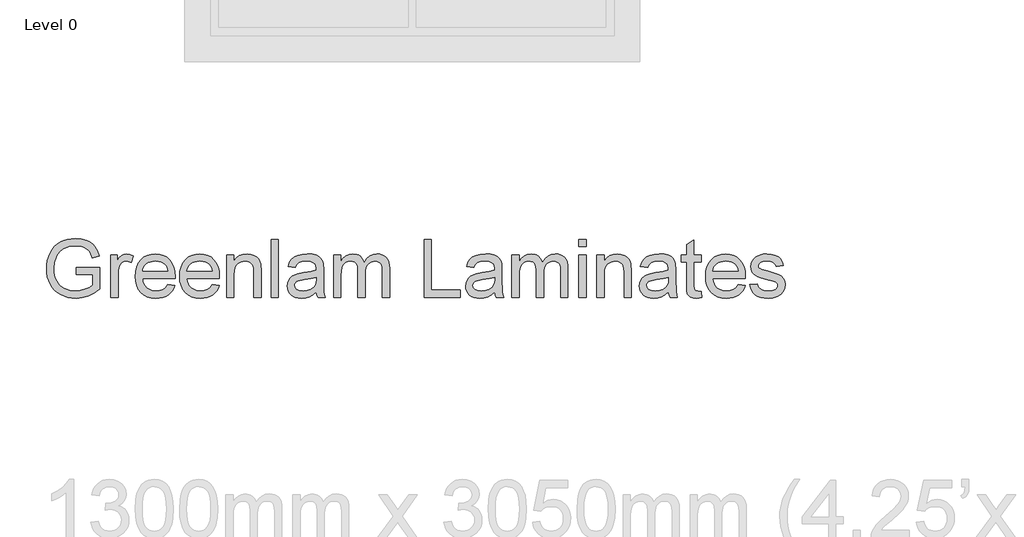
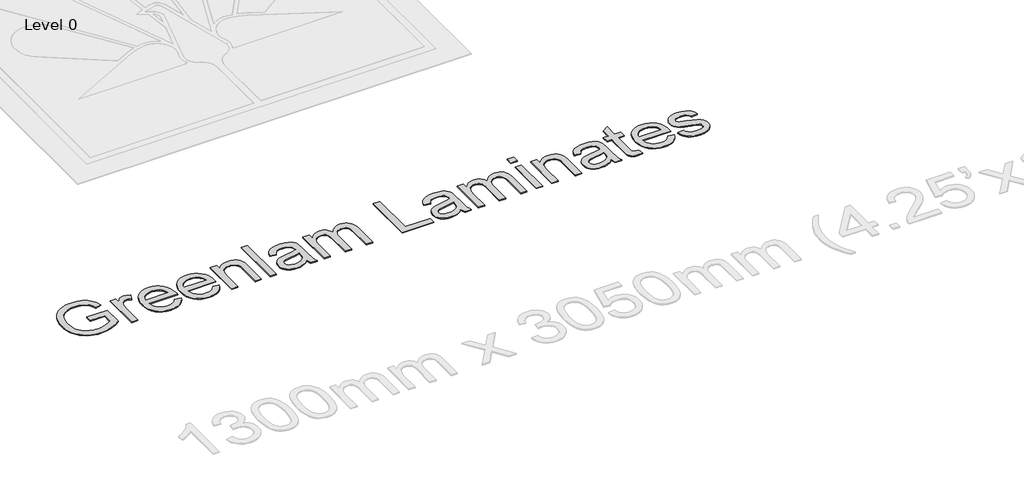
# One storey, part 4 of 4: 1 proxy.
"""IFC4 building model written with IfcOpenShell, lengths in millimetres."""

from ifc_helpers import new_model, si_unit, origin, origin_with_axes, place, context, project, spatial, polyline, outline, extrude, element, save

model = new_model("IFC4")

# Units and contexts
model_context = context("Model", 3, world=origin())
ifc_project = project(units=[si_unit("LENGTHUNIT", "METRE", prefix="MILLI")], contexts=[model_context])

# Site, building, storey
site = spatial("IfcSite", under=ifc_project)
building = spatial("IfcBuilding", under=site)
storey = spatial("IfcBuildingStorey", under=building, Name="Level 0", Elevation=0.0)

# Proxy
placement = place(None, origin())
element("IfcBuildingElementProxy", 1, Name="600mm Arial", ObjectType="600mm Arial", at=placement, inside=storey, context=model_context, shape_type="SweptSolid", body=[
    extrude(outline(polyline([(-10594.9298129, 2995.5724296), (-10594.9298129, 3070.9146622), (-10350.067557, 3070.9146622), (-10350.067557, 2845.6237284), (-10409.5724697, 2804.2370039), (-10470.9535806, 2774.5489269), (-10534.0637368, 2756.6698619), (-10598.7557857, 2750.7101736), (-10642.0325039, 2753.0784139), (-10683.2766741, 2760.183135), (-10722.4882962, 2772.0243367), (-10759.6673704, 2788.6020191), (-10793.6136815, 2809.6678618), (-10823.1270146, 2834.9735446), (-10848.2073696, 2864.5190673), (-10868.8547466, 2898.3044301), (-10884.9817735, 2935.2489794), (-10896.5010785, 2974.2720621), (-10903.4126615, 3015.373678), (-10905.7165225, 3058.5538272), (-10903.4218585, 3101.7385749), (-10896.5378667, 3143.4425975), (-10885.064547, 3183.6658952), (-10869.0018994, 3222.4084678), (-10848.6350324, 3257.9688612), (-10824.2490546, 3288.645621), (-10795.8439661, 3314.4387474), (-10763.4197667, 3335.3482403), (-10727.6800309, 3351.507457), (-10689.3283329, 3363.0497546), (-10648.3646727, 3369.9751331), (-10604.7890504, 3372.2835926), (-10542.7273578, 3366.9309096), (-10486.9196592, 3350.8728605), (-10462.0002525, 3339.1190308), (-10439.9227343, 3325.2682737), (-10420.6871045, 3309.3205892), (-10404.293363, 3291.2759773), (-10377.9346181, 3247.2588966), (-10358.749572, 3191.5799566), (-10428.2056927, 3172.0086345), (-10443.7119188, 3211.7214959), (-10462.5658711, 3241.6854844), (-10487.5082704, 3264.2734389), (-10521.2798375, 3281.8581982), (-10561.5445219, 3293.1705696), (-10605.9662728, 3296.94136), (-10657.9663928, 3292.876264), (-10702.4249319, 3280.6809758), (-10739.1763433, 3261.8822059), (-10768.0550799, 3238.0066644), (-10790.2199701, 3210.2867561), (-10806.8298422, 3179.9548856), (-10824.4881779, 3123.0803291), (-10830.3742899, 3061.6440359), (-10828.6038578, 3024.0235034), (-10823.2925615, 2989.5943472), (-10814.4404009, 2958.3565672), (-10802.0473762, 2930.3101636), (-10786.2744357, 2905.5609024), (-10767.2825277, 2884.2145496), (-10745.0716522, 2866.2711053), (-10719.6418093, 2851.7305695), (-10692.1840169, 2840.496373), (-10663.8892929, 2832.471947), (-10634.7576374, 2827.6572914), (-10604.7890504, 2826.0524062), (-10552.6049894, 2830.8900544), (-10501.7085154, 2845.4029992), (-10457.5074936, 2865.3973856), (-10425.4097896, 2886.679359), (-10425.4097896, 2995.5724296), (-10594.9298129, 2995.5724296)])), origin_with_axes(), (0.0, 0.0, 1.0), 10.0),
    extrude(outline(polyline([(-10237.054208, 2760.1279527), (-10237.054208, 3202.7635693), (-10171.1297545, 3202.7635693), (-10171.1297545, 3137.2805741), (-10146.7759664, 3175.245996), (-10124.3351647, 3197.6132213), (-10101.8207866, 3208.5393166), (-10077.2462693, 3212.1813483), (-10039.7223058, 3206.3688128), (-10001.6097311, 3188.9312062), (-10026.7728596, 3121.3880719), (-10053.2603632, 3132.9763548), (-10079.7478669, 3136.8391157), (-10102.2438509, 3133.1235076), (-10122.3486019, 3121.9766831), (-10138.590592, 3104.244771), (-10149.4982932, 3080.7738997), (-10158.6585549, 3038.6881994), (-10161.7119754, 2992.7765264), (-10161.7119754, 2760.1279527), (-10237.054208, 2760.1279527)])), origin_with_axes(), (0.0, 0.0, 1.0), 10.0),
    extrude(outline(polyline([(-9644.617043, 2891.9768597), (-9570.7463384, 2882.5590807), (-9582.0725053, 2852.9721712), (-9597.3626007, 2826.8985348), (-9616.6166246, 2804.3381714), (-9639.8345771, 2785.2910811), (-9666.7773347, 2770.1619341), (-9697.2057742, 2759.3554005), (-9731.1198956, 2752.8714803), (-9768.519699, 2750.7101736), (-9815.2683035, 2754.4395773), (-9856.9217424, 2765.6277885), (-9893.4800157, 2784.2748071), (-9924.9431233, 2810.3806332), (-9950.2442075, 2843.2186998), (-9968.3164106, 2882.06244), (-9979.1597324, 2926.9118537), (-9982.774173, 2977.766941), (-9979.1229442, 3030.3464752), (-9968.1692578, 3076.6904095), (-9949.9131138, 3116.798744), (-9924.3545121, 3150.6714788), (-9892.9741779, 3177.5820467), (-9857.2528362, 3196.8038809), (-9817.1904869, 3208.3369815), (-9772.7871301, 3212.1813483), (-9729.8139146, 3208.3461785), (-9690.9517803, 3196.8406691), (-9656.2007273, 3177.6648201), (-9625.5607557, 3150.8186315), (-9600.5493785, 3117.0194732), (-9582.6841091, 3076.9847151), (-9571.9649475, 3030.7143572), (-9568.3918936, 2978.2083994), (-9568.833352, 2957.9013133), (-9907.4319404, 2957.9013133), (-9903.0679402, 2927.8361572), (-9894.3905236, 2901.5050034), (-9881.3996907, 2878.9078519), (-9864.0954413, 2860.0447026), (-9843.4342688, 2845.1730729), (-9820.3726662, 2834.5504803), (-9794.9106336, 2828.1769247), (-9767.048171, 2826.0524062), (-9726.9490335, 2829.9887436), (-9693.1774664, 2841.7977556), (-9665.7334695, 2862.2152063), (-9644.617043, 2891.9768597)]), holes=[polyline([(-9907.4319404, 3033.2435459), (-9643.7341262, 3033.2435459), (-9653.9244575, 3073.0483778), (-9662.689246, 3088.7017567), (-9673.9004498, 3101.5224442), (-9694.4466593, 3116.973488), (-9717.82556, 3128.0099478), (-9744.0371522, 3134.6318238), (-9773.0814357, 3136.8391157), (-9799.5735379, 3135.0778807), (-9823.8675452, 3129.7941755), (-9845.9634575, 3120.9880003), (-9865.8612749, 3108.6593549), (-9882.558519, 3093.3784565), (-9895.0527112, 3075.7155222), (-9903.3438517, 3055.670552), (-9907.4319404, 3033.2435459)])]), origin_with_axes(), (0.0, 0.0, 1.0), 10.0),
    extrude(outline(polyline([(-9183.1458683, 2891.9768597), (-9109.2751636, 2882.5590807), (-9120.6013305, 2852.9721712), (-9135.891426, 2826.8985348), (-9155.1454499, 2804.3381714), (-9178.3634023, 2785.2910811), (-9205.3061599, 2770.1619341), (-9235.7345995, 2759.3554005), (-9269.6487209, 2752.8714803), (-9307.0485242, 2750.7101736), (-9353.7971288, 2754.4395773), (-9395.4505677, 2765.6277885), (-9432.0088409, 2784.2748071), (-9463.4719486, 2810.3806332), (-9488.7730328, 2843.2186998), (-9506.8452358, 2882.06244), (-9517.6885576, 2926.9118537), (-9521.3029982, 2977.766941), (-9517.6517694, 3030.3464752), (-9506.698083, 3076.6904095), (-9488.441939, 3116.798744), (-9462.8833374, 3150.6714788), (-9431.5030032, 3177.5820467), (-9395.7816615, 3196.8038809), (-9355.7193122, 3208.3369815), (-9311.3159554, 3212.1813483), (-9268.3427398, 3208.3461785), (-9229.4806055, 3196.8406691), (-9194.7295526, 3177.6648201), (-9164.0895809, 3150.8186315), (-9139.0782038, 3117.0194732), (-9121.2129344, 3076.9847151), (-9110.4937727, 3030.7143572), (-9106.9207189, 2978.2083994), (-9107.3621772, 2957.9013133), (-9445.9607656, 2957.9013133), (-9441.5967654, 2927.8361572), (-9432.9193489, 2901.5050034), (-9419.9285159, 2878.9078519), (-9402.6242666, 2860.0447026), (-9381.963094, 2845.1730729), (-9358.9014915, 2834.5504803), (-9333.4394589, 2828.1769247), (-9305.5769962, 2826.0524062), (-9265.4778588, 2829.9887436), (-9231.7062916, 2841.7977556), (-9204.2622948, 2862.2152063), (-9183.1458683, 2891.9768597)]), holes=[polyline([(-9445.9607656, 3033.2435459), (-9182.2629515, 3033.2435459), (-9192.4532827, 3073.0483778), (-9201.2180713, 3088.7017567), (-9212.4292751, 3101.5224442), (-9232.9754845, 3116.973488), (-9256.3543853, 3128.0099478), (-9282.5659775, 3134.6318238), (-9311.610261, 3136.8391157), (-9338.1023631, 3135.0778807), (-9362.3963704, 3129.7941755), (-9384.4922827, 3120.9880003), (-9404.3901002, 3108.6593549), (-9421.0873442, 3093.3784565), (-9433.5815365, 3075.7155222), (-9441.8726769, 3055.670552), (-9445.9607656, 3033.2435459)])]), origin_with_axes(), (0.0, 0.0, 1.0), 10.0),
    extrude(outline(polyline([(-9031.5784862, 2760.1279527), (-9031.5784862, 3202.7635693), (-8956.2362536, 3202.7635693), (-8956.2362536, 3140.9593941), (-8930.0614497, 3172.1189991), (-8898.6259332, 3194.3758598), (-8861.9297042, 3207.7299762), (-8819.9727626, 3212.1813483), (-8782.8350752, 3208.5944989), (-8748.8243847, 3197.8339505), (-8720.4606829, 3181.2424725), (-8700.2639614, 3160.1628342), (-8686.5603571, 3134.6502179), (-8677.6760069, 3104.7598058), (-8673.7028813, 3031.9191707), (-8673.7028813, 2760.1279527), (-8749.0451139, 2760.1279527), (-8749.0451139, 3021.7656276), (-8751.2156177, 3060.7243309), (-8757.727129, 3088.4258452), (-8769.7384762, 3108.2730788), (-8788.4084874, 3123.6689403), (-8812.3392112, 3133.5465719), (-8840.132696, 3136.8391157), (-8863.0103575, 3134.9905087), (-8884.2601413, 3129.4446876), (-8903.8820472, 3120.2016525), (-8921.8760753, 3107.2614033), (-8936.9086533, 3089.1524121), (-8947.646209, 3064.4031509), (-8954.0887425, 3033.0136196), (-8956.2362536, 2994.9838184), (-8956.2362536, 2760.1279527), (-9031.5784862, 2760.1279527)])), origin_with_axes(), (0.0, 0.0, 1.0), 10.0),
    extrude(outline(polyline([(-8570.1073115, 2760.1279527), (-8570.1073115, 3362.8658136), (-8494.7650789, 3362.8658136), (-8494.7650789, 2760.1279527), (-8570.1073115, 2760.1279527)])), origin_with_axes(), (0.0, 0.0, 1.0), 10.0),
    extrude(outline(polyline([(-8099.2183577, 2816.6346271), (-8135.2156109, 2785.7693277), (-8172.2797219, 2765.5726062), (-8211.2568193, 2754.4257817), (-8252.9930316, 2750.7101736), (-8286.5392711, 2752.9450567), (-8315.9560351, 2759.6497061), (-8341.2433238, 2770.8241217), (-8362.401137, 2786.4683035), (-8379.1075781, 2805.5889702), (-8391.0407503, 2827.1928404), (-8398.2006537, 2851.279914), (-8400.5872881, 2877.8501911), (-8396.9820446, 2909.0833725), (-8386.1663139, 2937.4470743), (-8369.4828654, 2961.727286), (-8348.2744684, 2980.709997), (-8323.3504632, 2995.0573948), (-8295.5201903, 3005.4316671), (-8230.3315007, 3016.7624325), (-8153.297011, 3028.6818092), (-8099.6598161, 3042.661325), (-8099.2183577, 3059.4367439), (-8104.4054938, 3093.0611583), (-8110.889414, 3105.5139638), (-8119.9669022, 3115.0605016), (-8135.6570693, 3124.5886453), (-8154.7685389, 3131.3944622), (-8203.2553859, 3136.8391157), (-8248.1369893, 3133.2154781), (-8279.4805353, 3122.3445651), (-8300.8544792, 3102.2398141), (-8315.8272764, 3070.9146622), (-8391.169509, 3080.3324413), (-8378.0913041, 3121.5352247), (-8358.5751643, 3153.9088403), (-8330.8000736, 3178.6672986), (-8292.9450163, 3197.0246101), (-8246.6470672, 3208.3921638), (-8193.5433012, 3212.1813483), (-8142.610039, 3208.8336222), (-8102.23499, 3198.7904437), (-8071.7927549, 3183.6888878), (-8050.6579343, 3165.1660294), (-8036.6416303, 3142.2653752), (-8027.554945, 3114.030432), (-8023.8761251, 3048.1059785), (-8023.8761251, 2954.3696461), (-8020.0501523, 2823.4772322), (-8014.3847696, 2791.1220108), (-8005.0405669, 2760.1279527), (-8080.3827995, 2760.1279527), (-8092.449329, 2786.3211507), (-8099.2183577, 2816.6346271)]), holes=[polyline([(-8099.2183577, 2967.3190924), (-8149.8389202, 2954.7743163), (-8220.7665689, 2944.2161031), (-8285.5873764, 2932.0024208), (-8302.4547659, 2923.6514995), (-8314.9443596, 2912.1367931), (-8322.6698815, 2898.3412183), (-8325.2450555, 2883.1476919), (-8319.6348551, 2860.7436784), (-8302.8042538, 2842.3863668), (-8275.1211337, 2830.1358964), (-8236.9533767, 2826.0524062), (-8196.4863572, 2830.5589606), (-8160.7282273, 2844.078624), (-8131.739126, 2863.999434), (-8111.5791927, 2887.7094286), (-8102.6396602, 2912.1367931), (-8099.6598161, 2945.9819366), (-8099.2183577, 2967.3190924)])]), origin_with_axes(), (0.0, 0.0, 1.0), 10.0),
    extrude(outline(polyline([(-7920.2805552, 2760.1279527), (-7920.2805552, 3202.7635693), (-7844.9383226, 3202.7635693), (-7844.9383226, 3129.9229342), (-7822.2767917, 3163.3818017), (-7793.1405377, 3189.5933938), (-7758.5228419, 3206.5343597), (-7719.4169858, 3212.1813483), (-7677.5152266, 3206.4239951), (-7659.6821469, 3199.2273036), (-7643.9276004, 3189.1519354), (-7618.8380484, 3161.5056035), (-7602.4305114, 3124.6254335), (-7574.9681204, 3162.9311462), (-7543.6429685, 3190.2923696), (-7508.4550557, 3206.7091037), (-7469.4043819, 3212.1813483), (-7439.2426568, 3209.9050785), (-7412.7689488, 3203.076269), (-7389.9832577, 3191.6949197), (-7370.8855836, 3175.7610308), (-7355.7886262, 3155.0906612), (-7345.0050853, 3129.4998699), (-7338.5349607, 3098.988657), (-7336.3782525, 3063.5570223), (-7336.3782525, 2760.1279527), (-7411.7204851, 2760.1279527), (-7411.7204851, 3031.1834067), (-7413.4679246, 3068.7625525), (-7418.710243, 3094.0912279), (-7428.5326923, 3111.436864), (-7444.0205243, 3125.0668919), (-7463.9413343, 3133.8960598), (-7487.0627177, 3136.8391157), (-7508.413669, 3134.9537205), (-7527.8792251, 3129.2975348), (-7545.4593859, 3119.8705587), (-7561.1541515, 3106.6727921), (-7574.062211, 3089.317959), (-7583.2822535, 3067.4197832), (-7588.814279, 3040.9782648), (-7590.6582875, 3009.9934038), (-7590.6582875, 2760.1279527), (-7666.0005201, 2760.1279527), (-7666.0005201, 3039.5711162), (-7670.3599218, 3082.1718512), (-7675.8091738, 3098.8920879), (-7683.4381267, 3112.5589041), (-7693.5502831, 3123.1814967), (-7706.4491455, 3130.7690628), (-7722.1347141, 3135.3216025), (-7740.6069888, 3136.8391157), (-7769.6328782, 3132.7924138), (-7796.3778992, 3120.6523079), (-7818.4508189, 3100.7131038), (-7833.4604044, 3073.269107), (-7842.068843, 3035.1933205), (-7844.9383226, 2983.3587473), (-7844.9383226, 2760.1279527), (-7920.2805552, 2760.1279527)])), origin_with_axes(), (0.0, 0.0, 1.0), 10.0),
    extrude(outline(polyline([(-6978.5026476, 2760.1279527), (-6978.5026476, 3362.8658136), (-6903.1604149, 3362.8658136), (-6903.1604149, 2835.4701853), (-6601.7914845, 2835.4701853), (-6601.7914845, 2760.1279527), (-6978.5026476, 2760.1279527)])), origin_with_axes(), (0.0, 0.0, 1.0), 10.0),
    extrude(outline(polyline([(-6243.9158796, 2816.6346271), (-6279.9131328, 2785.7693277), (-6316.9772438, 2765.5726062), (-6355.9543412, 2754.4257817), (-6397.6905536, 2750.7101736), (-6431.236793, 2752.9450567), (-6460.653557, 2759.6497061), (-6485.9408457, 2770.8241217), (-6507.0986589, 2786.4683035), (-6523.8051, 2805.5889702), (-6535.7382723, 2827.1928404), (-6542.8981756, 2851.279914), (-6545.28481, 2877.8501911), (-6541.6795665, 2909.0833725), (-6530.8638358, 2937.4470743), (-6514.1803873, 2961.727286), (-6492.9719903, 2980.709997), (-6468.0479852, 2995.0573948), (-6440.2177122, 3005.4316671), (-6375.0290227, 3016.7624325), (-6297.9945329, 3028.6818092), (-6244.357338, 3042.661325), (-6243.9158796, 3059.4367439), (-6249.1030157, 3093.0611583), (-6255.5869359, 3105.5139638), (-6264.6644241, 3115.0605016), (-6280.3545912, 3124.5886453), (-6299.4660609, 3131.3944622), (-6347.9529078, 3136.8391157), (-6392.8345112, 3133.2154781), (-6424.1780572, 3122.3445651), (-6445.5520011, 3102.2398141), (-6460.5247984, 3070.9146622), (-6535.867031, 3080.3324413), (-6522.788826, 3121.5352247), (-6503.2726862, 3153.9088403), (-6475.4975956, 3178.6672986), (-6437.6425383, 3197.0246101), (-6391.3445892, 3208.3921638), (-6338.2408232, 3212.1813483), (-6287.3075609, 3208.8336222), (-6246.932512, 3198.7904437), (-6216.4902768, 3183.6888878), (-6195.3554562, 3165.1660294), (-6181.3391522, 3142.2653752), (-6172.2524669, 3114.030432), (-6168.573647, 3048.1059785), (-6168.573647, 2954.3696461), (-6164.7476742, 2823.4772322), (-6159.0822915, 2791.1220108), (-6149.7380888, 2760.1279527), (-6225.0803214, 2760.1279527), (-6237.1468509, 2786.3211507), (-6243.9158796, 2816.6346271)]), holes=[polyline([(-6243.9158796, 2967.3190924), (-6294.5364421, 2954.7743163), (-6365.4640908, 2944.2161031), (-6430.2848983, 2932.0024208), (-6447.1522878, 2923.6514995), (-6459.6418816, 2912.1367931), (-6467.3674035, 2898.3412183), (-6469.9425774, 2883.1476919), (-6464.332377, 2860.7436784), (-6447.5017757, 2842.3863668), (-6419.8186556, 2830.1358964), (-6381.6508986, 2826.0524062), (-6341.1838791, 2830.5589606), (-6305.4257492, 2844.078624), (-6276.436648, 2863.999434), (-6256.2767146, 2887.7094286), (-6247.3371821, 2912.1367931), (-6244.357338, 2945.9819366), (-6243.9158796, 2967.3190924)])]), origin_with_axes(), (0.0, 0.0, 1.0), 10.0),
    extrude(outline(polyline([(-6064.9780771, 2760.1279527), (-6064.9780771, 3202.7635693), (-5989.6358445, 3202.7635693), (-5989.6358445, 3129.9229342), (-5966.9743136, 3163.3818017), (-5937.8380596, 3189.5933938), (-5903.2203639, 3206.5343597), (-5864.1145078, 3212.1813483), (-5822.2127485, 3206.4239951), (-5804.3796688, 3199.2273036), (-5788.6251224, 3189.1519354), (-5763.5355703, 3161.5056035), (-5747.1280333, 3124.6254335), (-5719.6656424, 3162.9311462), (-5688.3404905, 3190.2923696), (-5653.1525776, 3206.7091037), (-5614.1019038, 3212.1813483), (-5583.9401788, 3209.9050785), (-5557.4664707, 3203.076269), (-5534.6807796, 3191.6949197), (-5515.5831055, 3175.7610308), (-5500.4861482, 3155.0906612), (-5489.7026072, 3129.4998699), (-5483.2324826, 3098.988657), (-5481.0757744, 3063.5570223), (-5481.0757744, 2760.1279527), (-5556.418007, 2760.1279527), (-5556.418007, 3031.1834067), (-5558.1654465, 3068.7625525), (-5563.4077649, 3094.0912279), (-5573.2302142, 3111.436864), (-5588.7180462, 3125.0668919), (-5608.6388562, 3133.8960598), (-5631.7602396, 3136.8391157), (-5653.1111909, 3134.9537205), (-5672.576747, 3129.2975348), (-5690.1569078, 3119.8705587), (-5705.8516734, 3106.6727921), (-5718.759733, 3089.317959), (-5727.9797755, 3067.4197832), (-5733.511801, 3040.9782648), (-5735.3558095, 3009.9934038), (-5735.3558095, 2760.1279527), (-5810.6980421, 2760.1279527), (-5810.6980421, 3039.5711162), (-5815.0574437, 3082.1718512), (-5820.5066958, 3098.8920879), (-5828.1356486, 3112.5589041), (-5838.247805, 3123.1814967), (-5851.1466674, 3130.7690628), (-5866.832236, 3135.3216025), (-5885.3045107, 3136.8391157), (-5914.3304001, 3132.7924138), (-5941.0754212, 3120.6523079), (-5963.1483409, 3100.7131038), (-5978.1579263, 3073.269107), (-5986.766365, 3035.1933205), (-5989.6358445, 2983.3587473), (-5989.6358445, 2760.1279527), (-6064.9780771, 2760.1279527)])), origin_with_axes(), (0.0, 0.0, 1.0), 10.0),
    extrude(outline(polyline([(-5368.0624255, 3287.523581), (-5368.0624255, 3362.8658136), (-5292.7201929, 3362.8658136), (-5292.7201929, 3287.523581), (-5368.0624255, 3287.523581)])), origin_with_axes(), (0.0, 0.0, 1.0), 10.0),
    extrude(outline(polyline([(-5368.0624255, 2760.1279527), (-5368.0624255, 3202.7635693), (-5292.7201929, 3202.7635693), (-5292.7201929, 2760.1279527), (-5368.0624255, 2760.1279527)])), origin_with_axes(), (0.0, 0.0, 1.0), 10.0),
    extrude(outline(polyline([(-5179.7068439, 2760.1279527), (-5179.7068439, 3202.7635693), (-5104.3646113, 3202.7635693), (-5104.3646113, 3140.9593941), (-5078.1898074, 3172.1189991), (-5046.7542909, 3194.3758598), (-5010.0580619, 3207.7299762), (-4968.1011203, 3212.1813483), (-4930.9634329, 3208.5944989), (-4896.9527424, 3197.8339505), (-4868.5890406, 3181.2424725), (-4848.3923191, 3160.1628342), (-4834.6887148, 3134.6502179), (-4825.8043646, 3104.7598058), (-4821.831239, 3031.9191707), (-4821.831239, 2760.1279527), (-4897.1734716, 2760.1279527), (-4897.1734716, 3021.7656276), (-4899.3439754, 3060.7243309), (-4905.8554867, 3088.4258452), (-4917.8668339, 3108.2730788), (-4936.5368451, 3123.6689403), (-4960.4675689, 3133.5465719), (-4988.2610537, 3136.8391157), (-5011.1387152, 3134.9905087), (-5032.388499, 3129.4446876), (-5052.0104049, 3120.2016525), (-5070.004433, 3107.2614033), (-5085.037011, 3089.1524121), (-5095.7745667, 3064.4031509), (-5102.2171002, 3033.0136196), (-5104.3646113, 2994.9838184), (-5104.3646113, 2760.1279527), (-5179.7068439, 2760.1279527)])), origin_with_axes(), (0.0, 0.0, 1.0), 10.0),
    extrude(outline(polyline([(-4435.7022969, 2816.6346271), (-4471.6995501, 2785.7693277), (-4508.7636611, 2765.5726062), (-4547.7407585, 2754.4257817), (-4589.4769709, 2750.7101736), (-4623.0232103, 2752.9450567), (-4652.4399744, 2759.6497061), (-4677.727263, 2770.8241217), (-4698.8850762, 2786.4683035), (-4715.5915174, 2805.5889702), (-4727.5246896, 2827.1928404), (-4734.6845929, 2851.279914), (-4737.0712273, 2877.8501911), (-4733.4659838, 2909.0833725), (-4722.6502531, 2937.4470743), (-4705.9668047, 2961.727286), (-4684.7584076, 2980.709997), (-4659.8344025, 2995.0573948), (-4632.0041295, 3005.4316671), (-4566.81544, 3016.7624325), (-4489.7809502, 3028.6818092), (-4436.1437553, 3042.661325), (-4435.7022969, 3059.4367439), (-4440.889433, 3093.0611583), (-4447.3733532, 3105.5139638), (-4456.4508414, 3115.0605016), (-4472.1410085, 3124.5886453), (-4491.2524782, 3131.3944622), (-4539.7393251, 3136.8391157), (-4584.6209285, 3133.2154781), (-4615.9644745, 3122.3445651), (-4637.3384185, 3102.2398141), (-4652.3112157, 3070.9146622), (-4727.6534483, 3080.3324413), (-4714.5752433, 3121.5352247), (-4695.0591035, 3153.9088403), (-4667.2840129, 3178.6672986), (-4629.4289556, 3197.0246101), (-4583.1310065, 3208.3921638), (-4530.0272405, 3212.1813483), (-4479.0939782, 3208.8336222), (-4438.7189293, 3198.7904437), (-4408.2766942, 3183.6888878), (-4387.1418735, 3165.1660294), (-4373.1255695, 3142.2653752), (-4364.0388842, 3114.030432), (-4360.3600643, 3048.1059785), (-4360.3600643, 2954.3696461), (-4356.5340915, 2823.4772322), (-4350.8687088, 2791.1220108), (-4341.5245061, 2760.1279527), (-4416.8667387, 2760.1279527), (-4428.9332682, 2786.3211507), (-4435.7022969, 2816.6346271)]), holes=[polyline([(-4435.7022969, 2967.3190924), (-4486.3228594, 2954.7743163), (-4557.2505081, 2944.2161031), (-4622.0713157, 2932.0024208), (-4638.9387051, 2923.6514995), (-4651.4282989, 2912.1367931), (-4659.1538208, 2898.3412183), (-4661.7289947, 2883.1476919), (-4656.1187943, 2860.7436784), (-4639.288193, 2842.3863668), (-4611.6050729, 2830.1358964), (-4573.4373159, 2826.0524062), (-4532.9702964, 2830.5589606), (-4497.2121665, 2844.078624), (-4468.2230653, 2863.999434), (-4448.0631319, 2887.7094286), (-4439.1235995, 2912.1367931), (-4436.1437553, 2945.9819366), (-4435.7022969, 2967.3190924)])]), origin_with_axes(), (0.0, 0.0, 1.0), 10.0),
    extrude(outline(polyline([(-4096.6622501, 2822.9621974), (-4087.2444711, 2757.9206607), (-4143.6039927, 2750.7101736), (-4179.7667929, 2753.8371706), (-4206.7325431, 2763.2181614), (-4225.7888304, 2777.6759238), (-4238.2232419, 2796.0332354), (-4245.065847, 2827.5607224), (-4247.3467154, 2881.5290111), (-4247.3467154, 3127.4213367), (-4303.8533898, 3127.4213367), (-4303.8533898, 3202.7635693), (-4247.3467154, 3202.7635693), (-4247.3467154, 3310.3322647), (-4172.0044828, 3354.6252569), (-4172.0044828, 3202.7635693), (-4096.6622501, 3202.7635693), (-4096.6622501, 3127.4213367), (-4172.0044828, 3127.4213367), (-4172.0044828, 2883.7363031), (-4168.0313572, 2844.8879644), (-4155.1554874, 2831.1291777), (-4144.2845744, 2827.3215991), (-4129.4773241, 2826.0524062), (-4096.6622501, 2822.9621974)])), origin_with_axes(), (0.0, 0.0, 1.0), 10.0),
    extrude(outline(polyline([(-3711.4162248, 2891.9768597), (-3637.5455202, 2882.5590807), (-3648.8716871, 2852.9721712), (-3664.1617825, 2826.8985348), (-3683.4158064, 2804.3381714), (-3706.6337589, 2785.2910811), (-3733.5765165, 2770.1619341), (-3764.004956, 2759.3554005), (-3797.9190774, 2752.8714803), (-3835.3188808, 2750.7101736), (-3882.0674853, 2754.4395773), (-3923.7209242, 2765.6277885), (-3960.2791975, 2784.2748071), (-3991.7423051, 2810.3806332), (-4017.0433893, 2843.2186998), (-4035.1155923, 2882.06244), (-4045.9589142, 2926.9118537), (-4049.5733548, 2977.766941), (-4045.922126, 3030.3464752), (-4034.9684396, 3076.6904095), (-4016.7122955, 3116.798744), (-3991.1536939, 3150.6714788), (-3959.7733597, 3177.5820467), (-3924.052018, 3196.8038809), (-3883.9896687, 3208.3369815), (-3839.5863119, 3212.1813483), (-3796.6130964, 3208.3461785), (-3757.7509621, 3196.8406691), (-3722.9999091, 3177.6648201), (-3692.3599374, 3150.8186315), (-3667.3485603, 3117.0194732), (-3649.4832909, 3076.9847151), (-3638.7641293, 3030.7143572), (-3635.1910754, 2978.2083994), (-3635.6325338, 2957.9013133), (-3974.2311221, 2957.9013133), (-3969.867122, 2927.8361572), (-3961.1897054, 2901.5050034), (-3948.1988725, 2878.9078519), (-3930.8946231, 2860.0447026), (-3910.2334506, 2845.1730729), (-3887.171848, 2834.5504803), (-3861.7098154, 2828.1769247), (-3833.8473528, 2826.0524062), (-3793.7482153, 2829.9887436), (-3759.9766482, 2841.7977556), (-3732.5326513, 2862.2152063), (-3711.4162248, 2891.9768597)]), holes=[polyline([(-3974.2311221, 3033.2435459), (-3710.533308, 3033.2435459), (-3720.7236393, 3073.0483778), (-3729.4884278, 3088.7017567), (-3740.6996316, 3101.5224442), (-3761.245841, 3116.973488), (-3784.6247418, 3128.0099478), (-3810.836334, 3134.6318238), (-3839.8806175, 3136.8391157), (-3866.3727197, 3135.0778807), (-3890.6667269, 3129.7941755), (-3912.7626393, 3120.9880003), (-3932.6604567, 3108.6593549), (-3949.3577007, 3093.3784565), (-3961.851893, 3075.7155222), (-3970.1430335, 3055.670552), (-3974.2311221, 3033.2435459)])]), origin_with_axes(), (0.0, 0.0, 1.0), 10.0),
    extrude(outline(polyline([(-3588.10218, 2891.9768597), (-3512.7599474, 2901.3946388), (-3508.2074077, 2884.2145496), (-3500.877359, 2869.168176), (-3490.7698011, 2856.255518), (-3477.8847343, 2845.4765756), (-3462.1853701, 2836.9785015), (-3443.6349205, 2830.9084485), (-3397.9807649, 2826.0524062), (-3352.8784323, 2830.5037783), (-3335.3488552, 2836.0679935), (-3321.1670043, 2843.8578948), (-3302.4050226, 2863.2084877), (-3297.7145271, 2874.0426125), (-3296.1510286, 2885.6492894), (-3297.7237242, 2895.8212266), (-3302.4418108, 2904.8527296), (-3321.3141571, 2919.494433), (-3349.5307061, 2929.0593649), (-3398.8636817, 2940.9787415), (-3467.6208266, 2960.8627633), (-3512.318489, 2977.8405174), (-3541.0316787, 2996.3633759), (-3561.8354056, 3020.8827109), (-3574.4721521, 3049.8350239), (-3578.6844009, 3081.6568165), (-3575.2998866, 3110.8482528), (-3565.1463435, 3137.7956089), (-3549.1434767, 3161.4320271), (-3528.2109912, 3180.6906496), (-3507.4072644, 3192.8123613), (-3480.3127554, 3202.9842985), (-3448.9876035, 3209.8820859), (-3415.4919479, 3212.1813483), (-3366.4532779, 3208.4841343), (-3323.8157547, 3197.3924921), (-3289.5291527, 3179.9916738), (-3265.5432466, 3157.3669311), (-3249.6507444, 3127.844401), (-3239.6443542, 3089.7502203), (-3314.9865868, 3080.3324413), (-3324.4963364, 3104.0424359), (-3343.3135004, 3121.9031067), (-3371.6220199, 3133.1051135), (-3409.605836, 3136.8391157), (-3452.8687586, 3133.2706604), (-3481.710707, 3122.5652943), (-3497.934303, 3107.1142505), (-3503.3421683, 3089.308762), (-3501.0980882, 3077.7204791), (-3494.3658476, 3067.382995), (-3482.8511412, 3058.149157), (-3466.2596632, 3050.7547289), (-3401.3652793, 3034.7150739), (-3290.7799515, 2999.2512495), (-3261.5701211, 2982.2918896), (-3239.423625, 2959.0785357), (-3225.4625033, 2929.5376115), (-3220.808796, 2893.5955405), (-3226.2718437, 2856.439459), (-3242.6609865, 2821.4906695), (-3269.3508253, 2791.4898928), (-3305.7159605, 2769.1778498), (-3349.6410707, 2755.3270926), (-3399.0108345, 2750.7101736), (-3439.5606274, 2752.9358597), (-3474.9784665, 2759.6129179), (-3505.2643517, 2770.7413482), (-3530.4182832, 2786.3211507), (-3550.9644926, 2806.278749), (-3567.4272119, 2830.5405665), (-3579.806441, 2859.1066035), (-3588.10218, 2891.9768597)])), origin_with_axes(), (0.0, 0.0, 1.0), 10.0),
])

save(model, "model.ifc")
